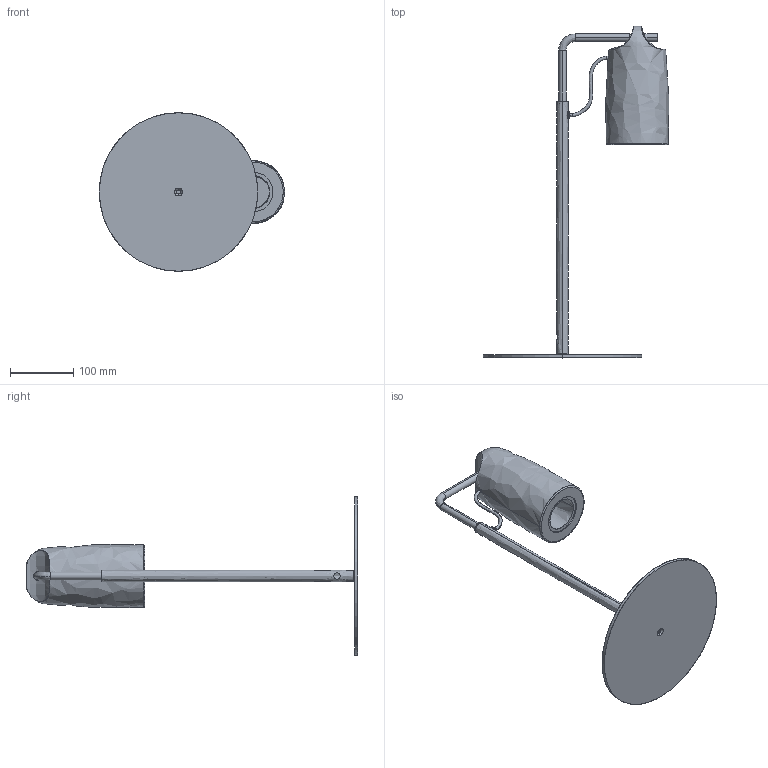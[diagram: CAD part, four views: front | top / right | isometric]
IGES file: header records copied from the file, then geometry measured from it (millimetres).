
Start section: SolidWorks IGES file using analytic representation for surfaces
Global section: file name: C:\Users\Deptecnico\Documents\almalight PLANOS\colección 2017\lampara ciment novell ernest\3d\paros sobremesa\paros marmol sobremesa.IGS; native system: SolidWorks 2015; preprocessor: SolidWorks 2015; author: Deptecnico; date: 170503.123039; units: millimetre
Bounding box: 292.55 x 523.5 x 250 mm (x, y, z)
Surface area: 245336.1 mm2 (no closed solid volume)
Topology: 0 solids, 0 shells, 73 faces, 2098 edges, 2096 vertices
Faces by surface type: revolution 42, bspline 31
